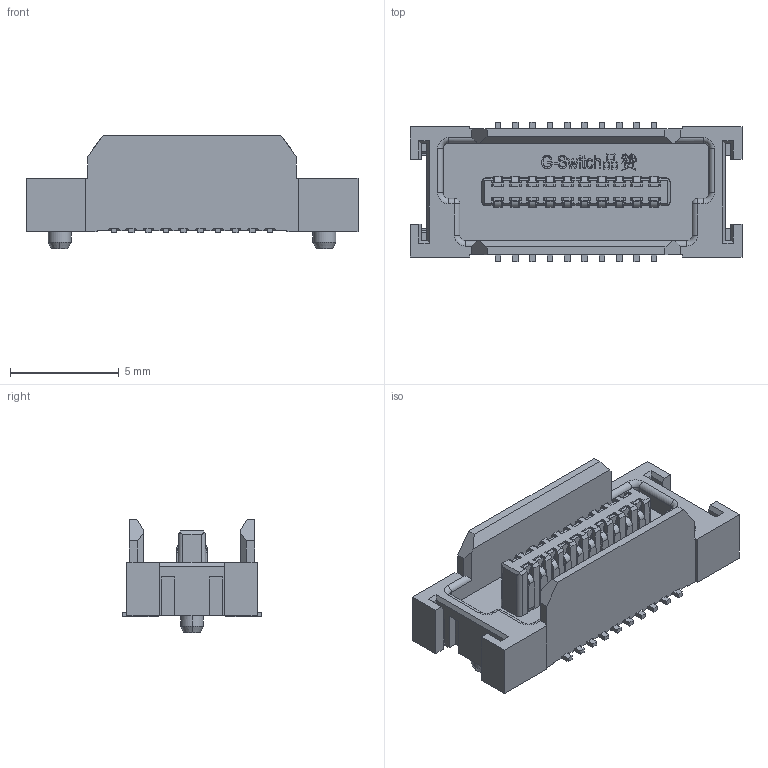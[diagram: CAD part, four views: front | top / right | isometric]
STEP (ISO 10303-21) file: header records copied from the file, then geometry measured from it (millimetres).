
FILE_DESCRIPTION (( 'STEP AP203' ), '1' );
FILE_NAME ('GT-B0810MSV45-20B0101.STEP', '2025-12-29T00:57:03', ( '' ), ( '' ), 'SwSTEP 2.0', 'SolidWorks 2020', '' );
FILE_SCHEMA (( 'CONFIG_CONTROL_DESIGN' ));
Length unit declared in the file: millimetre
Products named in the file (1): GT-B0810MSV45-20B0101
Bounding box: 15.3 x 6.42 x 5.25 mm (x, y, z)
Volume: 189.2 mm3; surface area: 657.2 mm2
Topology: 1 solids, 1 shells, 2146 faces, 6129 edges, 4006 vertices
Faces by surface type: plane 1555, cylinder 506, bspline 71, cone 6, torus 6, sphere 2
Entity records: 73220 total; most frequent: CARTESIAN_POINT 16851, ORIENTED_EDGE 12254, DIRECTION 11099, EDGE_CURVE 6127, LINE 4831, VECTOR 4831, VERTEX_POINT 4006, AXIS2_PLACEMENT_3D 3134
